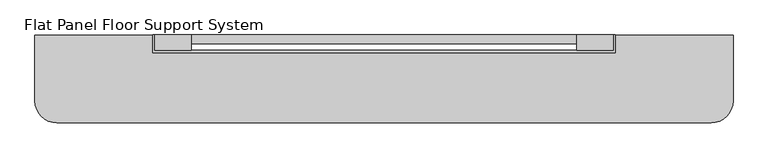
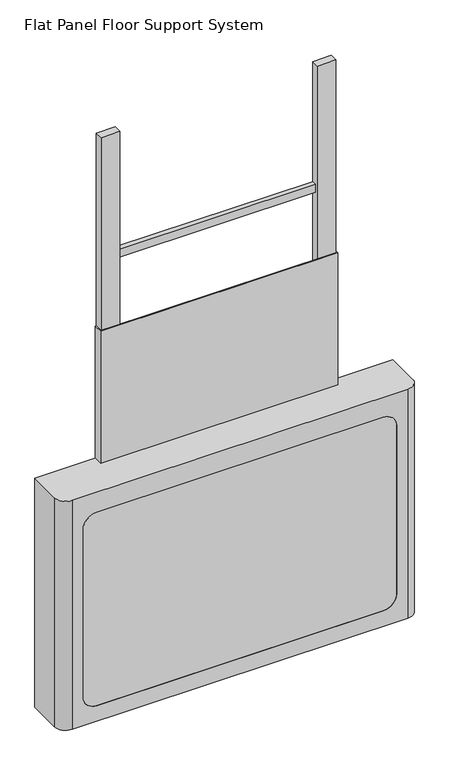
"""IFC4 building model written with IfcOpenShell, lengths in millimetres: proxy geometry, Flat_Panel_Mount-Chief-Floor_Support_System : Flat Panel Floor Support System."""

from ifc_helpers import new_model, si_unit, point, frame, frame_2d, origin, origin_with_axes, place, context, project, spatial, polyline, circle_curve, trimmed, segment, composite_curve, outline, extrude, source, transform, mapped, element, save
from ifc_brep_helpers import plane_surface, cylinder_surface, revolved_surface, advanced_brep


def flat_panel_floor_support_system_190e1e95(model_context):
    return source(origin(), model_context, "Body", "SolidModel", [
        advanced_brep(
        [(-504.825, 0.0, 682.498), (-504.825, -95.25, 682.498), (-473.075, -127.0, 682.498), (473.075, -127.0, 682.498), (504.825, -95.25, 682.498), (504.825, 0.0, 682.498), (331.216, 0.0, 682.498), (331.216, -22.225, 682.498), (-331.216, -22.225, 682.498), (-331.216, 0.0, 682.498), (504.825, 0.0, 0.0), (504.825, -95.25, 0.0), (473.075, -127.0, 0.0), (-473.075, -127.0, 0.0), (-504.825, -95.25, 0.0), (-504.825, 0.0, 0.0), (-501.777, 0.0, 0.0), (-501.777, -95.25, 0.0), (-473.202, -123.825, 0.0), (473.202, -123.825, 0.0), (501.777, -95.25, 0.0), (501.777, 0.0, 0.0), (501.777, 0.0, 679.323), (331.216, 0.0, 679.323), (-331.216, 0.0, 679.323), (-501.777, 0.0, 679.323), (-403.86, -127.0, 623.062), (403.86, -127.0, 623.062), (441.96, -127.0, 584.962), (441.96, -127.0, 84.582), (403.86, -127.0, 46.482), (-403.86, -127.0, 46.482), (-441.96, -127.0, 84.582), (-441.96, -127.0, 584.962), (473.202, -123.825, 679.323), (-473.202, -123.825, 679.323), (-501.777, -95.25, 679.323), (-331.216, -22.225, 679.323), (331.216, -22.225, 679.323), (501.777, -95.25, 679.323), (403.86, -123.825, 623.062), (-403.86, -123.825, 623.062), (-441.96, -123.825, 584.962), (-441.96, -123.825, 84.582), (-403.86, -123.825, 46.482), (403.86, -123.825, 46.482), (441.96, -123.825, 84.582), (441.96, -123.825, 584.962)],
        [
            (0, 1),
            (1, 2, circle_curve(frame((-473.075, -95.25, 682.498), z_axis=(0.0, 0.0, 1.0), x_axis=(1.0, 0.0, 0.0)), 31.75)),
            (2, 3),
            (3, 4, circle_curve(frame((473.075, -95.25, 682.498), z_axis=(0.0, 0.0, 1.0), x_axis=(1.0, 0.0, 0.0)), 31.75)),
            (4, 5),
            (5, 6),
            (6, 7),
            (7, 8),
            (8, 9),
            (9, 0),
            (10, 11),
            (11, 12, circle_curve(frame((473.075, -95.25, 0.0), z_axis=(0.0, 0.0, -1.0), x_axis=(1.0, 0.0, 0.0)), 31.75)),
            (12, 13),
            (13, 14, circle_curve(frame((-473.075, -95.25, 0.0), z_axis=(0.0, 0.0, -1.0), x_axis=(1.0, 0.0, 0.0)), 31.75)),
            (14, 15),
            (15, 16),
            (16, 17),
            (17, 18, circle_curve(frame((-473.202, -95.25, 0.0), z_axis=(0.0, 0.0, 1.0), x_axis=(1.0, 0.0, 0.0)), 28.575)),
            (18, 19),
            (19, 20, circle_curve(frame((473.202, -95.25, 0.0), z_axis=(0.0, 0.0, 1.0), x_axis=(1.0, 0.0, 0.0)), 28.575)),
            (20, 21),
            (21, 10),
            (5, 10),
            (21, 22),
            (22, 23),
            (23, 6),
            (15, 0),
            (9, 24),
            (24, 25),
            (25, 16),
            (14, 1),
            (13, 2),
            (12, 3),
            (26, 27),
            (27, 28, circle_curve(frame((403.86, -127.0, 584.962), z_axis=(0.0, 1.0, 0.0), x_axis=(1.0, 0.0, 0.0)), 38.1)),
            (28, 29),
            (29, 30, circle_curve(frame((403.86, -127.0, 84.582), z_axis=(0.0, 1.0, 0.0), x_axis=(1.0, 0.0, 0.0)), 38.1)),
            (30, 31),
            (31, 32, circle_curve(frame((-403.86, -127.0, 84.582), z_axis=(0.0, 1.0, 0.0), x_axis=(1.0, 0.0, 0.0)), 38.1)),
            (32, 33),
            (33, 26, circle_curve(frame((-403.86, -127.0, 584.962), z_axis=(0.0, 1.0, 0.0), x_axis=(1.0, 0.0, 0.0)), 38.1)),
            (11, 4),
            (34, 35),
            (35, 36, circle_curve(frame((-473.202, -95.25, 679.323), z_axis=(0.0, 0.0, -1.0), x_axis=(1.0, 0.0, 0.0)), 28.575)),
            (36, 25),
            (24, 37),
            (37, 38),
            (38, 23),
            (22, 39),
            (39, 34, circle_curve(frame((473.202, -95.25, 679.323), z_axis=(0.0, 0.0, -1.0), x_axis=(1.0, 0.0, 0.0)), 28.575)),
            (39, 20),
            (19, 34),
            (36, 17),
            (35, 18),
            (40, 41),
            (41, 42, circle_curve(frame((-403.86, -123.825, 584.962), z_axis=(0.0, -1.0, 0.0), x_axis=(1.0, 0.0, 0.0)), 38.1)),
            (42, 43),
            (43, 44, circle_curve(frame((-403.86, -123.825, 84.582), z_axis=(0.0, -1.0, 0.0), x_axis=(1.0, 0.0, 0.0)), 38.1)),
            (44, 45),
            (45, 46, circle_curve(frame((403.86, -123.825, 84.582), z_axis=(0.0, -1.0, 0.0), x_axis=(1.0, 0.0, 0.0)), 38.1)),
            (46, 47),
            (47, 40, circle_curve(frame((403.86, -123.825, 584.962), z_axis=(0.0, -1.0, 0.0), x_axis=(1.0, 0.0, 0.0)), 38.1)),
            (26, 41),
            (40, 27),
            (33, 42),
            (32, 43),
            (31, 44),
            (30, 45),
            (29, 46),
            (28, 47),
            (8, 37),
            (7, 38),
        ],
        [
            plane_surface(frame((-504.825, 0.0, 682.498), z_axis=(0.0, 0.0, 1.0), x_axis=(-1.0, 0.0, 0.0))),
            plane_surface(frame((-504.825, 0.0, 0.0), z_axis=(0.0, 0.0, -1.0), x_axis=(1.0, 0.0, 0.0))),
            plane_surface(frame((504.825, 0.0, 682.498), z_axis=(0.0, 1.0, 0.0), x_axis=(0.0, 0.0, -1.0))),
            plane_surface(frame((-504.825, 0.0, 682.498), z_axis=(-1.0, 0.0, 0.0), x_axis=(0.0, 0.0, -1.0))),
            cylinder_surface(frame((-473.075, -95.25, 0.0), z_axis=(0.0, 0.0, 1.0), x_axis=(1.0, 0.0, 0.0)), 31.75),
            plane_surface(frame((-473.075, -127.0, 682.498), z_axis=(0.0, -1.0, 0.0), x_axis=(0.0, 0.0, -1.0))),
            cylinder_surface(frame((473.075, -95.25, 0.0), z_axis=(0.0, 0.0, 1.0), x_axis=(1.0, 0.0, 0.0)), 31.75),
            plane_surface(frame((504.825, -95.25, 682.498), z_axis=(1.0, 0.0, 0.0), x_axis=(0.0, 0.0, -1.0))),
            plane_surface(frame((501.777, -95.25, 679.323), z_axis=(0.0, 0.0, -1.0), x_axis=(0.0, 1.0, 0.0))),
            revolved_surface(polyline([(501.777, -95.25, 679.323), (501.777, -95.25, 0.0)]), (473.202, -95.25, 0.0), (0.0, 0.0, 1.0)),
            plane_surface(frame((501.777, -95.25, 679.323), z_axis=(-1.0, 0.0, 0.0), x_axis=(0.0, 0.0, -1.0))),
            plane_surface(frame((-501.777, 0.0, 679.323), z_axis=(1.0, 0.0, 0.0), x_axis=(0.0, 0.0, -1.0))),
            revolved_surface(polyline([(-444.627, -95.25, 679.323), (-444.627, -95.25, 0.0)]), (-473.202, -95.25, 0.0), (0.0, 0.0, 1.0)),
            plane_surface(frame((-473.202, -123.825, 679.323), z_axis=(0.0, 1.0, 0.0), x_axis=(0.0, 0.0, -1.0))),
            plane_surface(frame((403.86, -127.0, 623.062), z_axis=(0.0, 0.0, -1.0), x_axis=(0.0, 1.0, 0.0))),
            revolved_surface(polyline([(-365.76, -127.0, 584.962), (-365.76, -123.825, 584.962)]), (-403.86, -123.825, 584.962), (0.0, -1.0, 0.0)),
            plane_surface(frame((-441.96, -127.0, 584.962), z_axis=(1.0, 0.0, 0.0), x_axis=(0.0, 1.0, 0.0))),
            revolved_surface(polyline([(-365.76, -127.0, 84.582), (-365.76, -123.825, 84.582)]), (-403.86, -123.825, 84.582), (0.0, -1.0, 0.0)),
            plane_surface(frame((-403.86, -127.0, 46.482), z_axis=(0.0, 0.0, 1.0), x_axis=(0.0, 1.0, 0.0))),
            revolved_surface(polyline([(441.96000000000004, -127.0, 84.582), (441.96000000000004, -123.825, 84.582)]), (403.86, -123.825, 84.582), (0.0, -1.0, 0.0)),
            plane_surface(frame((441.96, -127.0, 84.582), z_axis=(-1.0, 0.0, 0.0), x_axis=(0.0, 1.0, 0.0))),
            revolved_surface(polyline([(441.96000000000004, -127.0, 584.962), (441.96000000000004, -123.825, 584.962)]), (403.86, -123.825, 584.962), (0.0, -1.0, 0.0)),
            plane_surface(frame((-331.216, 0.0, 682.498), z_axis=(1.0, 0.0, 0.0), x_axis=(0.0, 0.0, -1.0))),
            plane_surface(frame((-331.216, -22.225, 682.498), z_axis=(0.0, 1.0, 0.0), x_axis=(0.0, 0.0, -1.0))),
            plane_surface(frame((331.216, -22.225, 682.498), z_axis=(-1.0, 0.0, 0.0), x_axis=(0.0, 0.0, -1.0))),
        ],
        [
            (0, [[1, 2, 3, 4, 5, 6, 7, 8, 9, 10]]),
            (1, [[11, 12, 13, 14, 15, 16, 17, 18, 19, 20, 21, 22]]),
            (2, [[23, -22, 24, 25, 26, -6]]),
            (2, [[27, -10, 28, 29, 30, -16]]),
            (3, [[-1, -27, -15, 31]]),
            (4, [[-2, -31, -14, 32]]),
            (5, [[-3, -32, -13, 33], [34, 35, 36, 37, 38, 39, 40, 41]]),
            (6, [[-4, -33, -12, 42]]),
            (7, [[-5, -42, -11, -23]]),
            (8, [[43, 44, 45, -29, 46, 47, 48, -25, 49, 50]]),
            (9, [[-50, 51, -20, 52]]),
            (10, [[-49, -24, -21, -51]]),
            (11, [[-45, 53, -17, -30]]),
            (12, [[-44, 54, -18, -53]]),
            (13, [[-43, -52, -19, -54], [55, 56, 57, 58, 59, 60, 61, 62]]),
            (14, [[63, -55, 64, -34]]),
            (15, [[-63, -41, 65, -56]]),
            (16, [[-65, -40, 66, -57]]),
            (17, [[-66, -39, 67, -58]]),
            (18, [[-67, -38, 68, -59]]),
            (19, [[-68, -37, 69, -60]]),
            (20, [[-69, -36, 70, -61]]),
            (21, [[-64, -62, -70, -35]]),
            (22, [[71, -46, -28, -9]]),
            (23, [[-71, -8, 72, -47]]),
            (24, [[-72, -7, -26, -48]]),
        ],
    ),
        extrude(outline(polyline([(278.384, -12.7), (-278.384, -12.7), (-278.384, 0.0), (278.384, 0.0), (278.384, -12.7)])), frame((0.0, 0.0, 1268.984), z_axis=(0.0, 0.0, 1.0), x_axis=(1.0, 0.0, 0.0)), (0.0, 0.0, 1.0), 24.13),
        extrude(outline(polyline([(-331.216, 0.0), (-331.216, -22.225), (331.216, -22.225), (331.216, 0.0), (334.391, 0.0), (334.391, -25.4), (-334.391, -25.4), (-334.391, 0.0), (-331.216, 0.0)])), frame((0.0, 0.0, 682.498), z_axis=(0.0, 0.0, 1.0), x_axis=(1.0, 0.0, 0.0)), (0.0, 0.0, 1.0), 393.7),
        extrude(outline(polyline([(-278.384, 0.0), (-278.384, -22.225), (-331.216, -22.225), (-331.216, 0.0), (-278.384, 0.0)])), origin_with_axes(), (0.0, 0.0, 1.0), 1651.0),
        extrude(outline(polyline([(331.216, 0.0), (331.216, -22.225), (278.384, -22.225), (278.384, 0.0), (331.216, 0.0)])), origin_with_axes(), (0.0, 0.0, 1.0), 1651.0),
        extrude(outline(composite_curve([segment(polyline([(623.062, 403.86), (623.062, -403.86)]), True, "CONTINUOUS"), segment(trimmed(circle_curve(frame_2d((584.962, -403.86)), 38.1), [point((623.062, -403.86))], [point((584.962, -441.96))], False, "CARTESIAN"), True, "CONTINUOUS"), segment(polyline([(584.962, -441.96), (84.582, -441.96)]), True, "CONTINUOUS"), segment(trimmed(circle_curve(frame_2d((84.582, -403.86)), 38.1), [point((84.582, -441.96))], [point((46.482, -403.86))], False, "CARTESIAN"), True, "CONTINUOUS"), segment(polyline([(46.482, -403.86), (46.482, 403.86)]), True, "CONTINUOUS"), segment(trimmed(circle_curve(frame_2d((84.582, 403.86)), 38.1), [point((46.482, 403.86))], [point((84.582, 441.96))], False, "CARTESIAN"), True, "CONTINUOUS"), segment(polyline([(84.582, 441.96), (584.962, 441.96)]), True, "CONTINUOUS"), segment(trimmed(circle_curve(frame_2d((584.962, 403.86)), 38.1), [point((584.962, 441.96))], [point((623.062, 403.86))], False, "CARTESIAN"), True, "CONTINUOUS")], self_intersect=False)), frame((0.0, -127.0, 0.0), z_axis=(0.0, 1.0, 0.0), x_axis=(0.0, 0.0, 1.0)), (0.0, 0.0, 1.0), 3.175),
    ])


if __name__ == "__main__":
    model = new_model("IFC4")
    model_context = context("Model", 3, world=origin())
    ifc_project = project(units=[si_unit("LENGTHUNIT", "METRE", prefix="MILLI")], contexts=[model_context])
    site = spatial("IfcSite", under=ifc_project)
    building = spatial("IfcBuilding", under=site)
    placement = place(None, origin())
    flat_panel_floor_support_system_shape = flat_panel_floor_support_system_190e1e95(model_context)
    element("IfcBuildingElementProxy", 1, Name="Flat_Panel_Mount-Chief-Floor_Support_System : Flat Panel Floor Support System", ObjectType="Flat_Panel_Mount-Chief-Floor_Support_System : Flat Panel Floor Support System", at=placement, inside=building, context=model_context, shape_type="MappedRepresentation", body=[
        mapped(flat_panel_floor_support_system_shape, transform((0.0, 0.0, 0.0), x_axis=(1.0, 0.0, 0.0), y_axis=(0.0, 1.0, 0.0), z_axis=(0.0, 0.0, 1.0))),
    ])
    save(model, "model.ifc")
